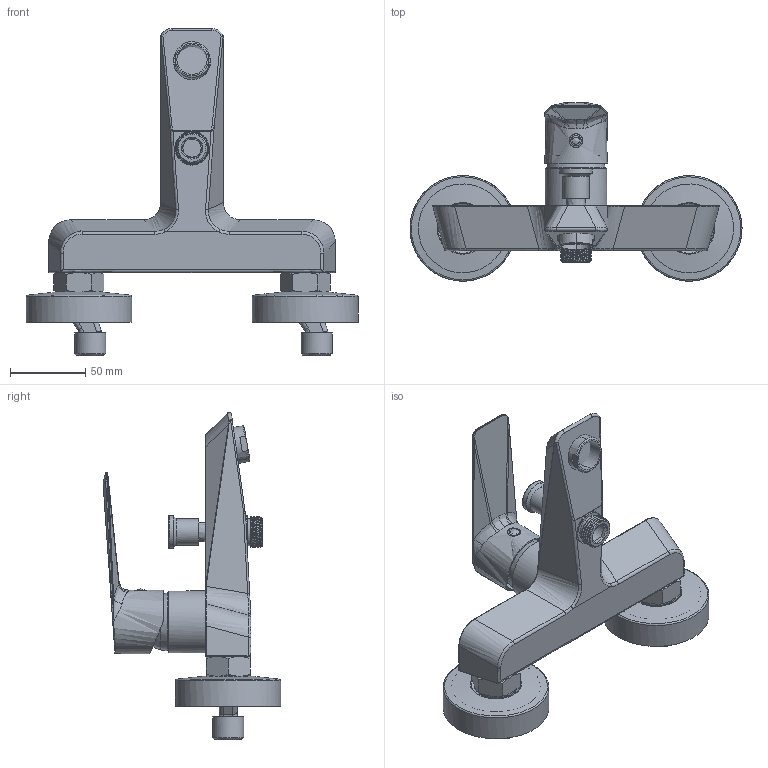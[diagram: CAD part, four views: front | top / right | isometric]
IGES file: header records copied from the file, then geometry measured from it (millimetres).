
Global section: file name: abcf5e42-391d-4df3-a191-6f648616963d; native system: unknown; preprocessor: unknown; author: unknown; organization: unknown; date: 20191215.122235; units: millimetre
Bounding box: 220 x 117.95 x 216.81 mm (x, y, z)
Volume: 375617.2 mm3; surface area: 128211 mm2
Topology: 17 solids, 17 shells, 606 faces, 1677 edges, 1146 vertices
Faces by surface type: bspline 606
